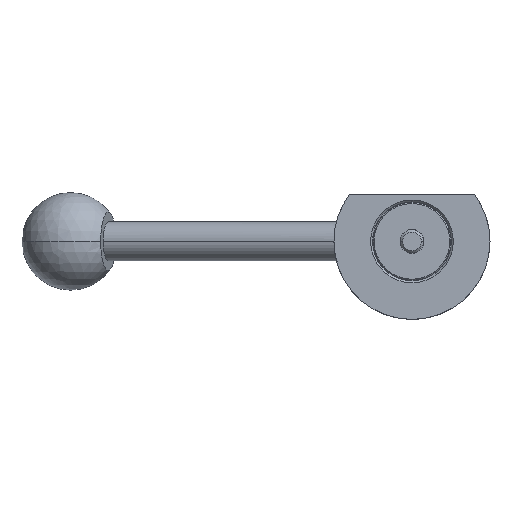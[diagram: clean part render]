
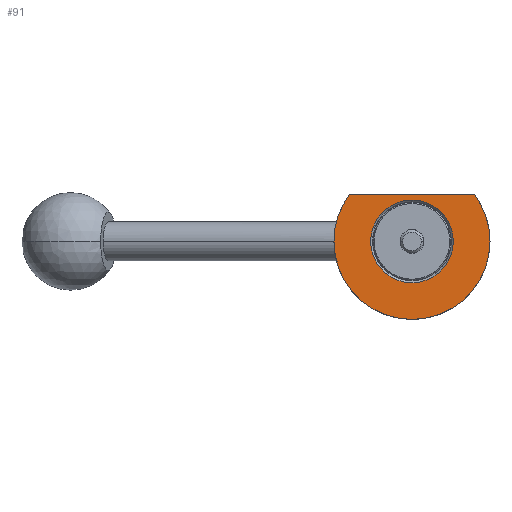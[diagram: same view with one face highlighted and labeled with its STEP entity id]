
A CAD part, front view. The second image highlights one B-rep face of the part: STEP entity #91.
In plain terms, the highlighted planar face has unit normal (0, -1, 0).
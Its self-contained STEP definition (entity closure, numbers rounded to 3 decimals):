
#6 = CARTESIAN_POINT ( 'NONE',  ( 0., -10., 0. ) ) ;
#52 = LINE ( 'NONE', #1336, #1289 ) ;
#64 = VERTEX_POINT ( 'NONE', #1415 ) ;
#80 = DIRECTION ( 'NONE',  ( 0., 1., 0. ) ) ;
#91 = ADVANCED_FACE ( 'NONE', ( #1243, #148 ), #1571, .T. ) ;
#109 = VERTEX_POINT ( 'NONE', #788 ) ;
#148 = FACE_OUTER_BOUND ( 'NONE', #1236, .T. ) ;
#178 = AXIS2_PLACEMENT_3D ( 'NONE', #1103, #458, #1580 ) ;
#192 = EDGE_CURVE ( 'NONE', #109, #1472, #52, .T. ) ;
#231 = CARTESIAN_POINT ( 'NONE',  ( 0., -10., 0. ) ) ;
#236 = EDGE_CURVE ( 'NONE', #398, #64, #679, .T. ) ;
#252 = CIRCLE ( 'NONE', #1123, 20. ) ;
#269 = EDGE_CURVE ( 'NONE', #64, #398, #1942, .T. ) ;
#310 = ORIENTED_EDGE ( 'NONE', *, *, #374, .F. ) ;
#327 = DIRECTION ( 'NONE',  ( -1., 0., 0. ) ) ;
#352 = AXIS2_PLACEMENT_3D ( 'NONE', #6, #853, #372 ) ;
#354 = AXIS2_PLACEMENT_3D ( 'NONE', #1146, #1623, #1446 ) ;
#372 = DIRECTION ( 'NONE',  ( -1., 0., 0. ) ) ;
#374 = EDGE_CURVE ( 'NONE', #909, #565, #919, .T. ) ;
#398 = VERTEX_POINT ( 'NONE', #1019 ) ;
#458 = DIRECTION ( 'NONE',  ( 0., -1., 0. ) ) ;
#459 = CARTESIAN_POINT ( 'NONE',  ( -16.001, -10., 11.999 ) ) ;
#494 = CARTESIAN_POINT ( 'NONE',  ( 0., -10., 0. ) ) ;
#565 = VERTEX_POINT ( 'NONE', #1101 ) ;
#679 = CIRCLE ( 'NONE', #352, 10.6 ) ;
#707 = CARTESIAN_POINT ( 'NONE',  ( 0., -10., 0. ) ) ;
#733 = ORIENTED_EDGE ( 'NONE', *, *, #236, .T. ) ;
#788 = CARTESIAN_POINT ( 'NONE',  ( 16.001, -10., 11.999 ) ) ;
#853 = DIRECTION ( 'NONE',  ( 0., 1., 0. ) ) ;
#861 = DIRECTION ( 'NONE',  ( -1., 0., 0. ) ) ;
#885 = DIRECTION ( 'NONE',  ( 0., 1., 0. ) ) ;
#909 = VERTEX_POINT ( 'NONE', #1361 ) ;
#918 = ORIENTED_EDGE ( 'NONE', *, *, #192, .T. ) ;
#919 = CIRCLE ( 'NONE', #1221, 20. ) ;
#932 = ORIENTED_EDGE ( 'NONE', *, *, #269, .T. ) ;
#950 = EDGE_LOOP ( 'NONE', ( #932, #733 ) ) ;
#1019 = CARTESIAN_POINT ( 'NONE',  ( -10.6, -10., 0. ) ) ;
#1028 = EDGE_CURVE ( 'NONE', #109, #909, #252, .T. ) ;
#1050 = DIRECTION ( 'NONE',  ( -1., 0., 0. ) ) ;
#1101 = CARTESIAN_POINT ( 'NONE',  ( -20., -10., 0. ) ) ;
#1103 = CARTESIAN_POINT ( 'NONE',  ( -10.6, -10., 0. ) ) ;
#1123 = AXIS2_PLACEMENT_3D ( 'NONE', #494, #1874, #1556 ) ;
#1146 = CARTESIAN_POINT ( 'NONE',  ( 0., -10., 0. ) ) ;
#1221 = AXIS2_PLACEMENT_3D ( 'NONE', #231, #885, #1050 ) ;
#1236 = EDGE_LOOP ( 'NONE', ( #1481, #918, #1498, #310 ) ) ;
#1243 = FACE_BOUND ( 'NONE', #950, .T. ) ;
#1258 = AXIS2_PLACEMENT_3D ( 'NONE', #707, #80, #861 ) ;
#1289 = VECTOR ( 'NONE', #327, 1000. ) ;
#1336 = CARTESIAN_POINT ( 'NONE',  ( -10.6, -10., 11.999 ) ) ;
#1361 = CARTESIAN_POINT ( 'NONE',  ( 20., -10., 0. ) ) ;
#1387 = CIRCLE ( 'NONE', #1258, 20. ) ;
#1415 = CARTESIAN_POINT ( 'NONE',  ( 10.6, -10., 0. ) ) ;
#1446 = DIRECTION ( 'NONE',  ( -1., 0., 0. ) ) ;
#1472 = VERTEX_POINT ( 'NONE', #459 ) ;
#1481 = ORIENTED_EDGE ( 'NONE', *, *, #1028, .F. ) ;
#1498 = ORIENTED_EDGE ( 'NONE', *, *, #2059, .F. ) ;
#1556 = DIRECTION ( 'NONE',  ( -1., 0., 0. ) ) ;
#1571 = PLANE ( 'NONE',  #178 ) ;
#1580 = DIRECTION ( 'NONE',  ( 1., 0., 0. ) ) ;
#1623 = DIRECTION ( 'NONE',  ( 0., 1., 0. ) ) ;
#1874 = DIRECTION ( 'NONE',  ( 0., 1., 0. ) ) ;
#1942 = CIRCLE ( 'NONE', #354, 10.6 ) ;
#2059 = EDGE_CURVE ( 'NONE', #565, #1472, #1387, .T. ) ;
